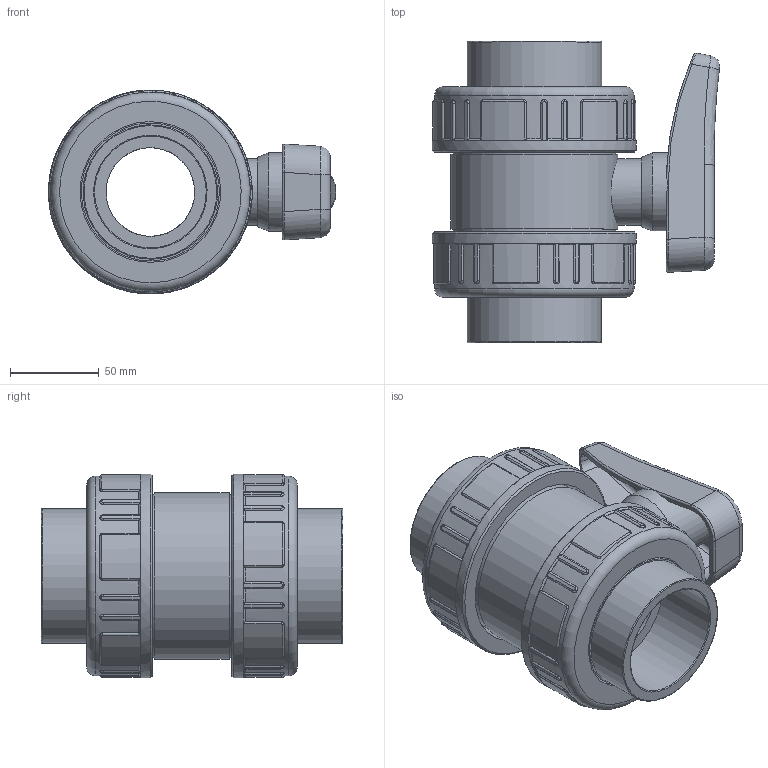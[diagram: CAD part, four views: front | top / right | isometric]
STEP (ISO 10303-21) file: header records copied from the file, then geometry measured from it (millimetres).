
FILE_DESCRIPTION(/* description */ (''),/* implementation_level */ '2;1');
FILE_NAME(/* name */ 'C:\Users\POLYPIPE\Desktop\DATASET INVENTOR\LIBRERIA EFFAST\3D_VALVOLE\3D_VALVOLE A SFERA\3D_BV\3D_BDRBVD\3D_BDRBVD0630.stp',/* time_stamp */ '2018-01-23T15:57:47+01:00',/* author */ ('POLYPIPE'),/* organization */ (''),/* preprocessor_version */ 'ST-DEVELOPER v16.1',/* originating_system */ 'Autodesk Inventor 2016',/* authorisation */ '');
FILE_SCHEMA (('CONFIG_CONTROL_DESIGN'));
Length unit declared in the file: centimetre
Products named in the file (1): 3D_BDRBVD0630
Bounding box: 161.92 x 170 x 114.98 mm (x, y, z)
Volume: 897412.9 mm3; surface area: 192144.3 mm2
Topology: 3 solids, 4 shells, 525 faces, 1338 edges, 842 vertices
Faces by surface type: plane 172, cylinder 166, bspline 162, torus 20, cone 5
Full cylindrical faces by diameter (mm): 25.1 x1, 37.3 x1, 44 x1, 50 x3, 55 x1, 63 x2, 66.8 x1, 75 x1, 75.8 x2, 77.8 x2, 79.3 x2, 88.9 x2, 91.7 x2, 94 x1, 96.5 x2, 112.4 x2, 115 x2
Entity records: 60705 total; most frequent: CARTESIAN_POINT 48453, ORIENTED_EDGE 2568, DIRECTION 2155, EDGE_CURVE 1284, AXIS2_PLACEMENT_3D 834, VERTEX_POINT 829, EDGE_LOOP 593, STYLED_ITEM 528
